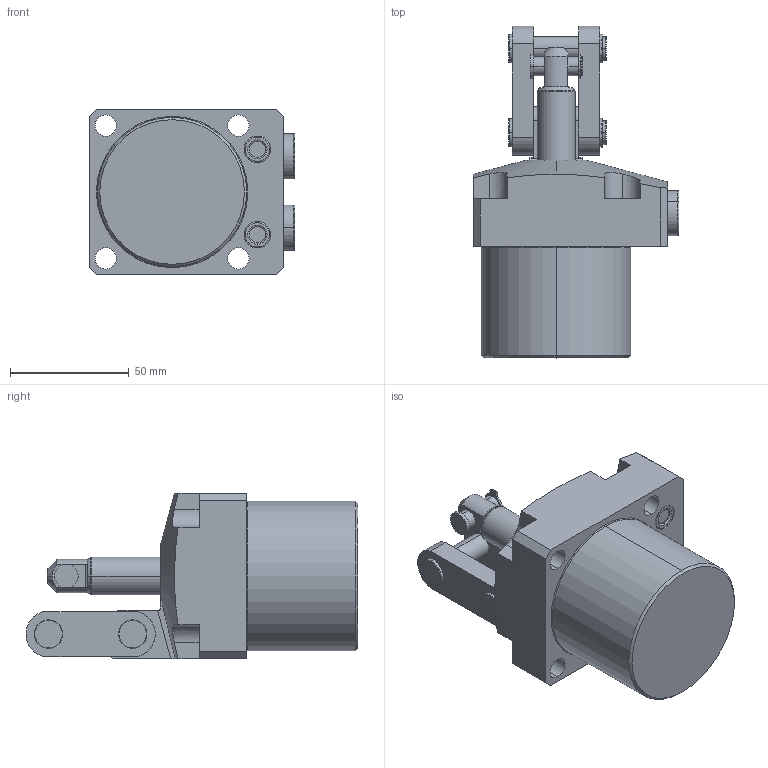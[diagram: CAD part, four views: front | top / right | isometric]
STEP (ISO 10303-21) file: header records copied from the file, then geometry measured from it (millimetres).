
FILE_DESCRIPTION(/* description */ (''),/* implementation_level */ '2;1');
FILE_NAME(/* name */ 'TPC10-R.stp',/* time_stamp */ '2025-01-05T10:28:23+08:00',/* author */ (''),/* organization */ (''),/* preprocessor_version */ 'ST-DEVELOPER v16.7',/* originating_system */ 'SIEMENS PLM Software NX 12.0',/* authorisation */ '');
FILE_SCHEMA (('AUTOMOTIVE_DESIGN { 1 0 10303 214 3 1 1 1 }'));
Length unit declared in the file: millimetre
Products named in the file (5): TPC10-R-01; TPC10-R-02; TPC10-R-03; TPC10-R-04; TPC10-R_stp
Assembly tree (5 placements, depth 2):
  TPC10-R_stp
    TPC10-R-04  x2
    TPC10-R-03
    TPC10-R-02
    TPC10-R-01
Bounding box: 86.8 x 140 x 70 mm (x, y, z)
Volume: 349975.6 mm3; surface area: 50491.8 mm2
Topology: 5 solids, 7 shells, 281 faces, 664 edges, 422 vertices
Faces by surface type: cylinder 116, plane 111, torus 34, cone 20
Entity records: 7832 total; most frequent: CARTESIAN_POINT 1464, DIRECTION 1406, ORIENTED_EDGE 1236, EDGE_CURVE 618, AXIS2_PLACEMENT_3D 560, VERTEX_POINT 394, EDGE_LOOP 302, CIRCLE 295
